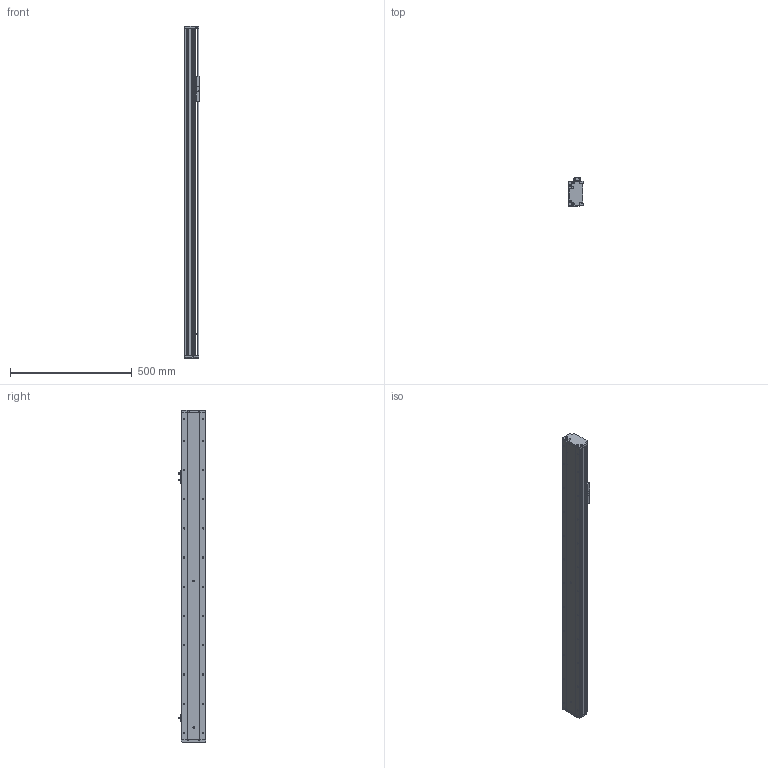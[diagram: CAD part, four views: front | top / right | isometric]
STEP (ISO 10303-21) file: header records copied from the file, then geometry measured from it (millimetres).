
FILE_DESCRIPTION (( 'STEP AP214' ), '1' );
FILE_NAME ('KSD100S-S1000-M-CM.STEP', '2019-08-30T01:21:42', ( '微软用户' ), ( '微软中国' ), 'SwSTEP 2.0', 'SolidWorks 2014', '' );
FILE_SCHEMA (( 'AUTOMOTIVE_DESIGN' ));
Length unit declared in the file: millimetre
Products named in the file (7): U倰嫖萇EEㄜSX672; 100宽防尘板丝杆1000行程电机内装; 100宽马达安装板-电机内装; 100宽滚珠螺姆安装板半封闭; 100遵傷啣; 100宽底板半封闭丝杆1000行程电机内装; KSD100S-S1000-M-CM
Assembly tree (8 placements, depth 2):
  KSD100S-S1000-M-CM
    100宽底板半封闭丝杆1000行程电机内装
    100遵傷啣
    100宽滚珠螺姆安装板半封闭
    100宽马达安装板-电机内装
    100宽防尘板丝杆1000行程电机内装
    U倰嫖萇EEㄜSX672  x3
Bounding box: 60 x 113.7 x 1363 mm (x, y, z)
Volume: 2562245.5 mm3; surface area: 930520 mm2
Topology: 8 solids, 8 shells, 1161 faces, 3334 edges, 2087 vertices
Faces by surface type: cylinder 566, plane 446, cone 149
Entity records: 41632 total; most frequent: CARTESIAN_POINT 9157, DIRECTION 5337, ORIENTED_EDGE 5272, EDGE_CURVE 2636, AXIS2_PLACEMENT_3D 1935, VERTEX_POINT 1711, LINE 1467, VECTOR 1467
